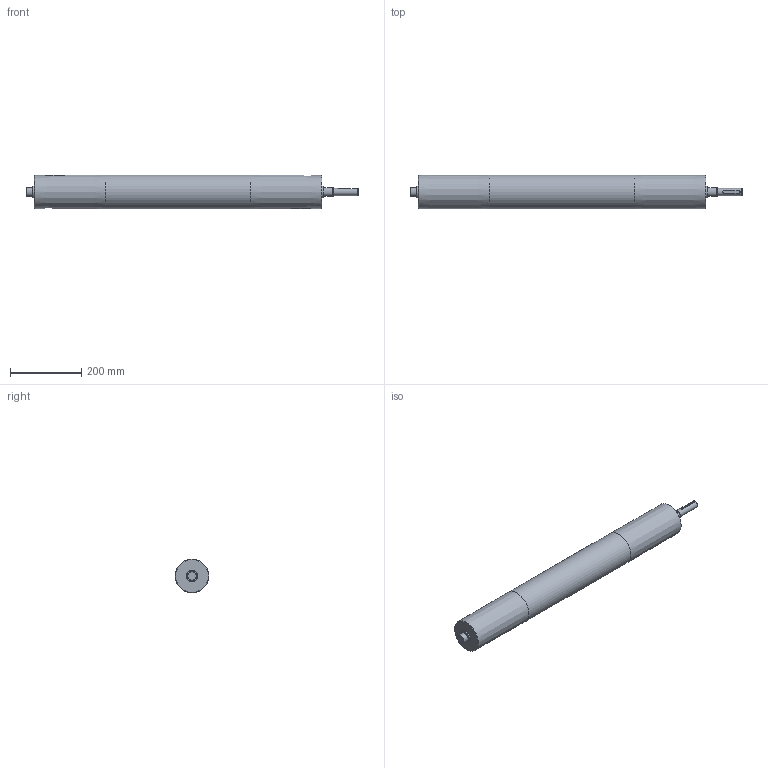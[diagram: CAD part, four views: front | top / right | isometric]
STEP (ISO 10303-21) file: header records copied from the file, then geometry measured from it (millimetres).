
FILE_DESCRIPTION((''),'2;1');
FILE_NAME('C:\Documents and Settings\Administrator\My Documents\Andys Backup Data\ANDY''S INVENTOR\INVENTOR LIBRARIES\MINITEC INVENTOR LIBRARIES\BELT AND ROLLER CONVEYORS\A PACKED FILES\STEP FILES\21.0981 BELT DRIVING CYLINDER 90.stp','2010-07-06T09:46:45',('Administrator'),(''),'Autodesk Inventor 2009','Autodesk Inventor 2009','');
FILE_SCHEMA(('CONFIG_CONTROL_DESIGN'));
Length unit declared in the file: millimetre
Products named in the file (1): 21.0981 BELT DRIVING CYLINDER 90
Bounding box: 930 x 95 x 95 mm (x, y, z)
Volume: 5718790.8 mm3; surface area: 261944.8 mm2
Topology: 1 solids, 1 shells, 27 faces, 48 edges, 29 vertices
Faces by surface type: plane 10, cone 9, cylinder 8
Full cylindrical faces by diameter (mm): 20 x1, 25 x2, 33 x2, 95 x1
Entity records: 687 total; most frequent: CARTESIAN_POINT 156, DIRECTION 110, ORIENTED_EDGE 66, AXIS2_PLACEMENT_3D 51, EDGE_LOOP 48, EDGE_CURVE 33, VERTEX_POINT 29, FACE_OUTER_BOUND 27
